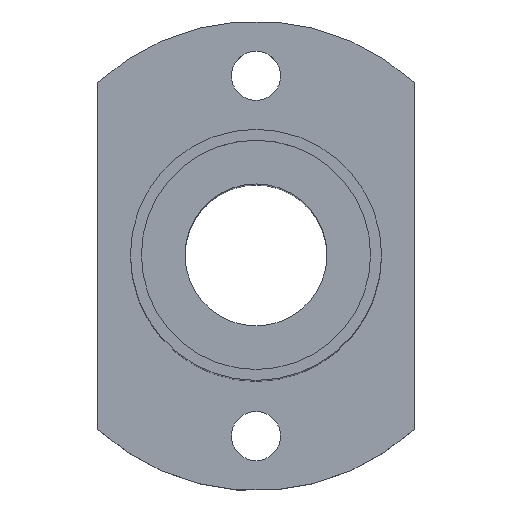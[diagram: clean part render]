
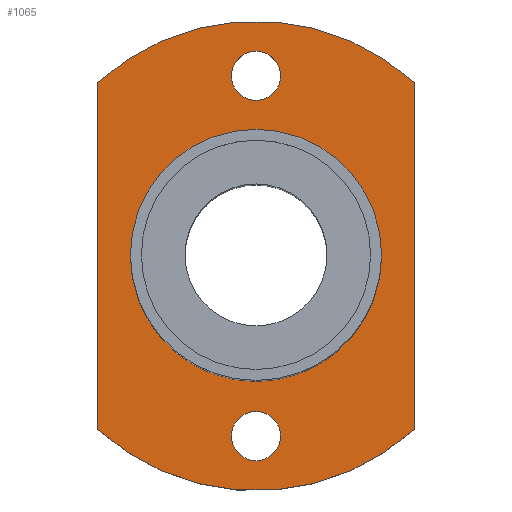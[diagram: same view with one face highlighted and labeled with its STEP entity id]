
A CAD part, top view. The second image highlights one B-rep face of the part: STEP entity #1065.
In plain terms, the highlighted planar face has unit normal (0, 0, 1).
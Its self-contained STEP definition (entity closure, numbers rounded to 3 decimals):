
#91=CARTESIAN_POINT('',(-2.,-10.645,6.0));
#92=VERTEX_POINT('',#91);
#101=CARTESIAN_POINT('',(21.,-10.645,6.));
#102=VERTEX_POINT('',#101);
#103=CARTESIAN_POINT('',(9.5,-10.645,6.));
#104=DIRECTION('',(0.0,0.0,-1.0));
#105=DIRECTION('',(-1.0,0.0,0.0));
#106=AXIS2_PLACEMENT_3D('',#103,#104,#105);
#107=CIRCLE('',#106,11.5);
#108=EDGE_CURVE('',#102,#92,#107,.T.);
#280=CARTESIAN_POINT('',(7.25,-27.145,6.));
#281=VERTEX_POINT('',#280);
#290=CARTESIAN_POINT('',(11.75,-27.145,6.));
#291=VERTEX_POINT('',#290);
#292=CARTESIAN_POINT('',(9.5,-27.145,6.));
#293=DIRECTION('',(0.0,0.0,-1.0));
#294=DIRECTION('',(-1.0,0.0,0.0));
#295=AXIS2_PLACEMENT_3D('',#292,#293,#294);
#296=CIRCLE('',#295,2.25);
#297=EDGE_CURVE('',#291,#281,#296,.T.);
#406=CARTESIAN_POINT('',(7.25,5.855,6.));
#407=VERTEX_POINT('',#406);
#416=CARTESIAN_POINT('',(11.75,5.855,6.));
#417=VERTEX_POINT('',#416);
#418=CARTESIAN_POINT('',(9.5,5.855,6.));
#419=DIRECTION('',(0.0,0.0,-1.0));
#420=DIRECTION('',(-1.0,0.0,0.0));
#421=AXIS2_PLACEMENT_3D('',#418,#419,#420);
#422=CIRCLE('',#421,2.25);
#423=EDGE_CURVE('',#417,#407,#422,.T.);
#600=CARTESIAN_POINT('',(9.5,5.855,6.));
#601=DIRECTION('',(0.0,0.0,-1.0));
#602=DIRECTION('',(-1.0,0.0,0.0));
#603=AXIS2_PLACEMENT_3D('',#600,#601,#602);
#604=CIRCLE('',#603,2.25);
#605=EDGE_CURVE('',#407,#417,#604,.T.);
#704=CARTESIAN_POINT('',(9.5,-27.145,6.));
#705=DIRECTION('',(0.0,0.0,-1.0));
#706=DIRECTION('',(-1.0,0.0,0.0));
#707=AXIS2_PLACEMENT_3D('',#704,#705,#706);
#708=CIRCLE('',#707,2.25);
#709=EDGE_CURVE('',#281,#291,#708,.T.);
#908=CARTESIAN_POINT('',(9.5,-10.645,6.));
#909=DIRECTION('',(0.0,0.0,-1.0));
#910=DIRECTION('',(-1.0,0.0,0.0));
#911=AXIS2_PLACEMENT_3D('',#908,#909,#910);
#912=CIRCLE('',#911,11.5);
#913=EDGE_CURVE('',#92,#102,#912,.T.);
#949=CARTESIAN_POINT('',(24.,-26.52,6.));
#950=VERTEX_POINT('',#949);
#951=CARTESIAN_POINT('',(-5.,-26.52,6.));
#952=VERTEX_POINT('',#951);
#953=CARTESIAN_POINT('',(9.5,-10.645,6.));
#954=DIRECTION('',(0.0,0.0,-1.0));
#955=DIRECTION('',(-0.674,-0.738,0.0));
#956=AXIS2_PLACEMENT_3D('',#953,#954,#955);
#957=CIRCLE('',#956,21.5);
#958=EDGE_CURVE('',#950,#952,#957,.T.);
#981=CARTESIAN_POINT('',(-5.0,5.229,6.));
#982=VERTEX_POINT('',#981);
#983=CARTESIAN_POINT('',(-5.,-26.52,6.));
#984=DIRECTION('',(0.0,1.0,0.0));
#985=VECTOR('',#984,31.749);
#986=LINE('',#983,#985);
#987=EDGE_CURVE('',#952,#982,#986,.T.);
#1005=CARTESIAN_POINT('',(24.,5.229,6.));
#1006=VERTEX_POINT('',#1005);
#1007=CARTESIAN_POINT('',(9.5,-10.645,6.));
#1008=DIRECTION('',(0.0,0.0,-1.));
#1009=DIRECTION('',(0.674,0.738,0.0));
#1010=AXIS2_PLACEMENT_3D('',#1007,#1008,#1009);
#1011=CIRCLE('',#1010,21.5);
#1012=EDGE_CURVE('',#982,#1006,#1011,.T.);
#1030=CARTESIAN_POINT('',(24.,5.229,6.));
#1031=DIRECTION('',(0.0,-1.0,0.0));
#1032=VECTOR('',#1031,31.749);
#1033=LINE('',#1030,#1032);
#1034=EDGE_CURVE('',#1006,#950,#1033,.T.);
#1042=CARTESIAN_POINT('',(9.5,-10.645,6.));
#1043=DIRECTION('',(0.0,0.0,1.0));
#1044=DIRECTION('',(1.0,0.0,0.0));
#1045=AXIS2_PLACEMENT_3D('',#1042,#1043,#1044);
#1046=PLANE('',#1045);
#1047=ORIENTED_EDGE('',*,*,#958,.F.);
#1048=ORIENTED_EDGE('',*,*,#1034,.F.);
#1049=ORIENTED_EDGE('',*,*,#1012,.F.);
#1050=ORIENTED_EDGE('',*,*,#987,.F.);
#1051=EDGE_LOOP('',(#1047,#1048,#1049,#1050));
#1052=FACE_OUTER_BOUND('',#1051,.T.);
#1053=ORIENTED_EDGE('',*,*,#423,.T.);
#1054=ORIENTED_EDGE('',*,*,#605,.T.);
#1055=EDGE_LOOP('',(#1053,#1054));
#1056=FACE_BOUND('',#1055,.T.);
#1057=ORIENTED_EDGE('',*,*,#297,.T.);
#1058=ORIENTED_EDGE('',*,*,#709,.T.);
#1059=EDGE_LOOP('',(#1057,#1058));
#1060=FACE_BOUND('',#1059,.T.);
#1061=ORIENTED_EDGE('',*,*,#108,.T.);
#1062=ORIENTED_EDGE('',*,*,#913,.T.);
#1063=EDGE_LOOP('',(#1061,#1062));
#1064=FACE_BOUND('',#1063,.T.);
#1065=ADVANCED_FACE('',(#1052,#1056,#1060,#1064),#1046,.T.);
